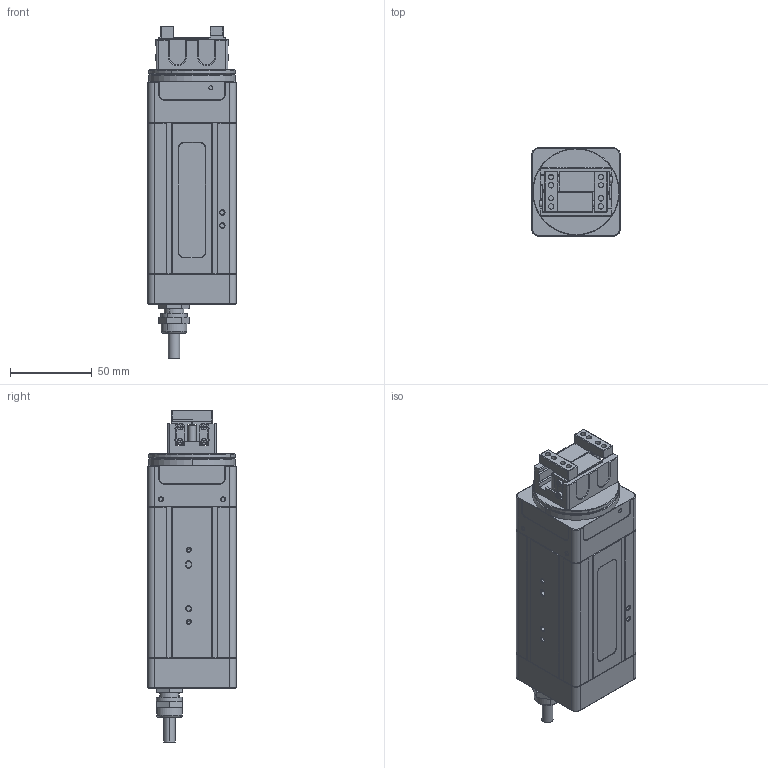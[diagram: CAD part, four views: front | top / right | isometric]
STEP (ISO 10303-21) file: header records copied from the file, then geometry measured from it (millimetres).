
FILE_DESCRIPTION(('CATIA V5 STEP Exchange'),'2;1');
FILE_NAME('E:\工作文件\ERG-20-100\外观建模\202208\ERG20-100-20220823.stp','2022-08-23T10:25:27+00:00',('none'),('none'),'CATIA Version 5 Release 20 GA (IN-10)','CATIA V5 STEP AP203','none');
FILE_SCHEMA(('CONFIG_CONTROL_DESIGN'));
Length unit declared in the file: millimetre
Products named in the file (1): 产品1
Assembly tree (4 placements, depth 2):
  产品1
    #58
    #13800
    #17103  x2
Bounding box: 54 x 54 x 203.1 mm (x, y, z)
Volume: 431192.3 mm3; surface area: 56268 mm2
Topology: 4 solids, 29 shells, 1062 faces, 2552 edges, 1598 vertices
Faces by surface type: plane 578, cylinder 256, cone 176, torus 50, bspline 2
Entity records: 23181 total; most frequent: CARTESIAN_POINT 4850, ORIENTED_EDGE 4014, DIRECTION 3102, EDGE_CURVE 2007, AXIS2_PLACEMENT_3D 1289, VERTEX_POINT 1254, VECTOR 1181, LINE 1181
